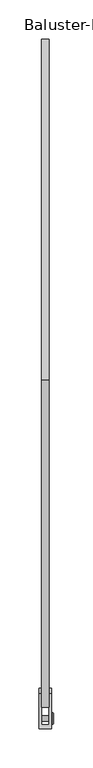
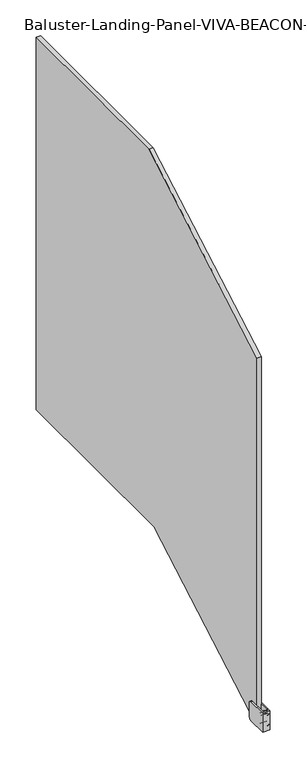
"""IFC4 building model written with IfcOpenShell, lengths in millimetres: railing geometry, Baluster-Landing-Panel-VIVA-BEACON-Lower : Standard_Glass."""

from ifc_helpers import new_model, si_unit, point, frame, origin, place, context, project, spatial, polyline, circle_curve, ellipse_curve, trimmed, outline, extrude, source, transform, mapped, element, save
from ifc_brep_helpers import plane_surface, cylinder_surface, revolved_surface, advanced_brep


def baluster_landing_panel_viva_beacon_lower_standard_glass_3bbf7e14(model_context):
    return source(origin(), model_context, "Body", "SolidModel", [
        advanced_brep(
        [(33.3375, -17.8996011, 0.771525), (33.3375, -10.8087093, 0.771525), (46.0375, -10.8087093, 0.771525), (46.0375, -17.8996011, 0.771525), (46.0375, -6.9463661, 0.771525), (46.0375, -21.7619443, 0.771525), (46.904612, -16.0102306, 0.771525), (46.904612, -12.6980798, 0.771525), (33.3375, -12.6980798, 0.771525), (33.3375, -16.0102306, 0.771525), (46.8723449, -21.7619443, 0.771525), (46.8723449, -6.9463661, 0.771525), (48.1536169, -8.2276382, 0.771525), (48.1536169, -20.4806723, 0.771525), (48.1536169, -10.0555597, 0.771525), (48.1536169, -18.6527508, 0.771525), (46.904612, -10.0555597, 0.771525), (46.904612, -18.6527508, 0.771525)],
        [
            (0, 1, circle_curve(frame((33.3375, -14.3541552, 0.771525), z_axis=(1.0, 0.0, 0.0), x_axis=(0.0, 1.0, 0.0)), 3.5454459)),
            (1, 2),
            (2, 3, circle_curve(frame((46.0375, -14.3541552, 0.771525), z_axis=(-1.0, 0.0, 0.0), x_axis=(0.0, 1.0, 0.0)), 3.5454459)),
            (3, 0),
            (1, 0, circle_curve(frame((33.3375, -14.3541552, 0.771525), z_axis=(1.0, 0.0, 0.0), x_axis=(0.0, 1.0, 0.0)), 3.5454459)),
            (3, 2, circle_curve(frame((46.0375, -14.3541552, 0.771525), z_axis=(-1.0, 0.0, 0.0), x_axis=(0.0, 1.0, 0.0)), 3.5454459)),
            (2, 4),
            (4, 5, circle_curve(frame((46.0375, -14.3541552, 0.771525), z_axis=(-1.0, 0.0, 0.0), x_axis=(0.0, 1.0, 0.0)), 7.4077891)),
            (5, 3),
            (5, 4, circle_curve(frame((46.0375, -14.3541552, 0.771525), z_axis=(-1.0, 0.0, 0.0), x_axis=(0.0, 1.0, 0.0)), 7.4077891)),
            (6, 7, circle_curve(frame((46.904612, -14.3541552, 0.771525), z_axis=(1.0, 0.0, 0.0), x_axis=(0.0, 1.0, 0.0)), 1.6560754)),
            (7, 8),
            (8, 9, circle_curve(frame((33.3375, -14.3541552, 0.771525), z_axis=(-1.0, 0.0, 0.0), x_axis=(0.0, 1.0, 0.0)), 1.6560754)),
            (9, 6),
            (7, 6, circle_curve(frame((46.904612, -14.3541552, 0.771525), z_axis=(1.0, 0.0, 0.0), x_axis=(0.0, 1.0, 0.0)), 1.6560754)),
            (9, 8, circle_curve(frame((33.3375, -14.3541552, 0.771525), z_axis=(-1.0, 0.0, 0.0), x_axis=(0.0, 1.0, 0.0)), 1.6560754)),
            (10, 11, circle_curve(frame((46.8723449, -14.3541552, 0.771525), z_axis=(1.0, 0.0, 0.0), x_axis=(0.0, 1.0, 0.0)), 7.4077891)),
            (11, 12, circle_curve(frame((46.8723449, -8.2276382, 0.771525), z_axis=(0.0, 0.0, -1.0), x_axis=(0.0, 1.0, 0.0)), 1.281272)),
            (12, 13, circle_curve(frame((48.1536169, -14.3541552, 0.771525), z_axis=(-1.0, 0.0, 0.0), x_axis=(0.0, 1.0, 0.0)), 6.1265171)),
            (13, 10, circle_curve(frame((46.8723449, -20.4806723, 0.771525), z_axis=(0.0, 0.0, -1.0), x_axis=(0.0, -1.0, 0.0)), 1.281272)),
            (11, 10, circle_curve(frame((46.8723449, -14.3541552, 0.771525), z_axis=(1.0, 0.0, 0.0), x_axis=(0.0, 1.0, 0.0)), 7.4077891)),
            (13, 12, circle_curve(frame((48.1536169, -14.3541552, 0.771525), z_axis=(-1.0, 0.0, 0.0), x_axis=(0.0, 1.0, 0.0)), 6.1265171)),
            (12, 14),
            (14, 15, circle_curve(frame((48.1536169, -14.3541552, 0.771525), z_axis=(-1.0, 0.0, 0.0), x_axis=(0.0, 1.0, 0.0)), 4.2985955)),
            (15, 13),
            (15, 14, circle_curve(frame((48.1536169, -14.3541552, 0.771525), z_axis=(-1.0, 0.0, 0.0), x_axis=(0.0, 1.0, 0.0)), 4.2985955)),
            (4, 11),
            (10, 5),
            (8, 1),
            (0, 9),
            (14, 16),
            (16, 17, circle_curve(frame((46.904612, -14.3541552, 0.771525), z_axis=(-1.0, 0.0, 0.0), x_axis=(0.0, 1.0, 0.0)), 4.2985955)),
            (17, 15),
            (17, 16, circle_curve(frame((46.904612, -14.3541552, 0.771525), z_axis=(-1.0, 0.0, 0.0), x_axis=(0.0, 1.0, 0.0)), 4.2985955)),
            (16, 7),
            (6, 17),
        ],
        [
            cylinder_surface(frame((42.5407669, -14.3541552, 0.771525), z_axis=(-1.0, 0.0, 0.0), x_axis=(0.0, 1.0, 0.0)), 3.5454459),
            plane_surface(frame((46.0375, -14.3541552, 0.771525), z_axis=(-1.0, 0.0, 0.0), x_axis=(0.0, 1.0, 0.0))),
            revolved_surface(polyline([(33.3375, -12.698079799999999, 0.771525), (46.904612, -12.698079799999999, 0.771525)]), (42.5407669, -14.3541552, 0.771525), (-1.0, 0.0, 0.0)),
            revolved_surface(trimmed(ellipse_curve(frame((46.8723449, -8.2276382, 0.771525), z_axis=(0.0, 0.0, 1.0), x_axis=(0.0, 1.0, 0.0)), 1.281272, 1.281272), [point((48.1536169, -8.2276382, 0.771525))], [point((46.8723449, -6.9463661, 0.771525))], True, "CARTESIAN"), (42.5407669, -14.3541552, 0.771525), (-1.0, 0.0, 0.0)),
            plane_surface(frame((48.1536169, -14.3541552, 0.771525), z_axis=(1.0, 0.0, 0.0), x_axis=(0.0, 1.0, 0.0))),
            cylinder_surface(frame((42.5407669, -14.3541552, 0.771525), z_axis=(-1.0, 0.0, 0.0), x_axis=(0.0, 1.0, 0.0)), 7.4077891),
            plane_surface(frame((33.3375, -14.3541552, 0.771525), z_axis=(-1.0, 0.0, 0.0), x_axis=(0.0, 1.0, 0.0))),
            revolved_surface(polyline([(46.904612, -10.0555597, 0.771525), (48.1536169, -10.0555597, 0.771525)]), (42.5407669, -14.3541552, 0.771525), (-1.0, 0.0, 0.0)),
            plane_surface(frame((46.904612, -14.3541552, 0.771525), z_axis=(1.0, 0.0, 0.0), x_axis=(0.0, 1.0, 0.0))),
        ],
        [
            (0, [[1, 2, 3, 4]]),
            (0, [[5, -4, 6, -2]]),
            (1, [[-3, 7, 8, 9]]),
            (1, [[-6, -9, 10, -7]]),
            (2, [[11, 12, 13, 14]]),
            (2, [[15, -14, 16, -12]]),
            (3, [[17, 18, 19, 20]]),
            (3, [[21, -20, 22, -18]]),
            (4, [[-19, 23, 24, 25]]),
            (4, [[-22, -25, 26, -23]]),
            (5, [[-8, 27, -17, 28]]),
            (5, [[-10, -28, -21, -27]]),
            (6, [[-13, 29, -1, 30]]),
            (6, [[-16, -30, -5, -29]]),
            (7, [[-24, 31, 32, 33]]),
            (7, [[-26, -33, 34, -31]]),
            (8, [[-32, 35, -11, 36]]),
            (8, [[-34, -36, -15, -35]]),
        ],
    ),
        advanced_brep(
        [(33.3375, -17.8996011, -23.834725), (33.3375, -10.8087093, -23.834725), (46.0375, -10.8087093, -23.834725), (46.0375, -17.8996011, -23.834725), (46.0375, -6.9463661, -23.834725), (46.0375, -21.7619443, -23.834725), (46.904612, -16.0102306, -23.834725), (46.904612, -12.6980798, -23.834725), (33.3375, -12.6980798, -23.834725), (33.3375, -16.0102306, -23.834725), (46.8723449, -21.7619443, -23.834725), (46.8723449, -6.9463661, -23.834725), (48.1536169, -8.2276382, -23.834725), (48.1536169, -20.4806723, -23.834725), (48.1536169, -10.0555597, -23.834725), (48.1536169, -18.6527508, -23.834725), (46.904612, -10.0555597, -23.834725), (46.904612, -18.6527508, -23.834725)],
        [
            (0, 1, circle_curve(frame((33.3375, -14.3541552, -23.834725), z_axis=(1.0, 0.0, 0.0), x_axis=(0.0, 1.0, 0.0)), 3.5454459)),
            (1, 2),
            (2, 3, circle_curve(frame((46.0375, -14.3541552, -23.834725), z_axis=(-1.0, 0.0, 0.0), x_axis=(0.0, 1.0, 0.0)), 3.5454459)),
            (3, 0),
            (1, 0, circle_curve(frame((33.3375, -14.3541552, -23.834725), z_axis=(1.0, 0.0, 0.0), x_axis=(0.0, 1.0, 0.0)), 3.5454459)),
            (3, 2, circle_curve(frame((46.0375, -14.3541552, -23.834725), z_axis=(-1.0, 0.0, 0.0), x_axis=(0.0, 1.0, 0.0)), 3.5454459)),
            (2, 4),
            (4, 5, circle_curve(frame((46.0375, -14.3541552, -23.834725), z_axis=(-1.0, 0.0, 0.0), x_axis=(0.0, 1.0, 0.0)), 7.4077891)),
            (5, 3),
            (5, 4, circle_curve(frame((46.0375, -14.3541552, -23.834725), z_axis=(-1.0, 0.0, 0.0), x_axis=(0.0, 1.0, 0.0)), 7.4077891)),
            (6, 7, circle_curve(frame((46.904612, -14.3541552, -23.834725), z_axis=(1.0, 0.0, 0.0), x_axis=(0.0, 1.0, 0.0)), 1.6560754)),
            (7, 8),
            (8, 9, circle_curve(frame((33.3375, -14.3541552, -23.834725), z_axis=(-1.0, 0.0, 0.0), x_axis=(0.0, 1.0, 0.0)), 1.6560754)),
            (9, 6),
            (7, 6, circle_curve(frame((46.904612, -14.3541552, -23.834725), z_axis=(1.0, 0.0, 0.0), x_axis=(0.0, 1.0, 0.0)), 1.6560754)),
            (9, 8, circle_curve(frame((33.3375, -14.3541552, -23.834725), z_axis=(-1.0, 0.0, 0.0), x_axis=(0.0, 1.0, 0.0)), 1.6560754)),
            (10, 11, circle_curve(frame((46.8723449, -14.3541552, -23.834725), z_axis=(1.0, 0.0, 0.0), x_axis=(0.0, 1.0, 0.0)), 7.4077891)),
            (11, 12, circle_curve(frame((46.8723449, -8.2276382, -23.834725), z_axis=(0.0, 0.0, -1.0), x_axis=(0.0, 1.0, 0.0)), 1.281272)),
            (12, 13, circle_curve(frame((48.1536169, -14.3541552, -23.834725), z_axis=(-1.0, 0.0, 0.0), x_axis=(0.0, 1.0, 0.0)), 6.1265171)),
            (13, 10, circle_curve(frame((46.8723449, -20.4806723, -23.834725), z_axis=(0.0, 0.0, -1.0), x_axis=(0.0, -1.0, 0.0)), 1.281272)),
            (11, 10, circle_curve(frame((46.8723449, -14.3541552, -23.834725), z_axis=(1.0, 0.0, 0.0), x_axis=(0.0, 1.0, 0.0)), 7.4077891)),
            (13, 12, circle_curve(frame((48.1536169, -14.3541552, -23.834725), z_axis=(-1.0, 0.0, 0.0), x_axis=(0.0, 1.0, 0.0)), 6.1265171)),
            (12, 14),
            (14, 15, circle_curve(frame((48.1536169, -14.3541552, -23.834725), z_axis=(-1.0, 0.0, 0.0), x_axis=(0.0, 1.0, 0.0)), 4.2985955)),
            (15, 13),
            (15, 14, circle_curve(frame((48.1536169, -14.3541552, -23.834725), z_axis=(-1.0, 0.0, 0.0), x_axis=(0.0, 1.0, 0.0)), 4.2985955)),
            (8, 1),
            (0, 9),
            (4, 11),
            (10, 5),
            (14, 16),
            (16, 17, circle_curve(frame((46.904612, -14.3541552, -23.834725), z_axis=(-1.0, 0.0, 0.0), x_axis=(0.0, 1.0, 0.0)), 4.2985955)),
            (17, 15),
            (17, 16, circle_curve(frame((46.904612, -14.3541552, -23.834725), z_axis=(-1.0, 0.0, 0.0), x_axis=(0.0, 1.0, 0.0)), 4.2985955)),
            (16, 7),
            (6, 17),
        ],
        [
            cylinder_surface(frame((42.5407669, -14.3541552, -23.834725), z_axis=(-1.0, 0.0, 0.0), x_axis=(0.0, 1.0, 0.0)), 3.5454459),
            plane_surface(frame((46.0375, -14.3541552, -23.834725), z_axis=(-1.0, 0.0, 0.0), x_axis=(0.0, 1.0, 0.0))),
            revolved_surface(polyline([(33.3375, -12.698079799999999, -23.834725), (46.904612, -12.698079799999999, -23.834725)]), (42.5407669, -14.3541552, -23.834725), (-1.0, 0.0, 0.0)),
            revolved_surface(trimmed(ellipse_curve(frame((46.8723449, -8.2276382, -23.834725), z_axis=(0.0, 0.0, 1.0), x_axis=(0.0, 1.0, 0.0)), 1.281272, 1.281272), [point((48.1536169, -8.2276382, -23.834725))], [point((46.8723449, -6.9463661, -23.834725))], True, "CARTESIAN"), (42.5407669, -14.3541552, -23.834725), (-1.0, 0.0, 0.0)),
            plane_surface(frame((48.1536169, -14.3541552, -23.834725), z_axis=(1.0, 0.0, 0.0), x_axis=(0.0, 1.0, 0.0))),
            plane_surface(frame((33.3375, -14.3541552, -23.834725), z_axis=(-1.0, 0.0, 0.0), x_axis=(0.0, 1.0, 0.0))),
            cylinder_surface(frame((42.5407669, -14.3541552, -23.834725), z_axis=(-1.0, 0.0, 0.0), x_axis=(0.0, 1.0, 0.0)), 7.4077891),
            revolved_surface(polyline([(46.904612, -10.0555597, -23.834725), (48.1536169, -10.0555597, -23.834725)]), (42.5407669, -14.3541552, -23.834725), (-1.0, 0.0, 0.0)),
            plane_surface(frame((46.904612, -14.3541552, -23.834725), z_axis=(1.0, 0.0, 0.0), x_axis=(0.0, 1.0, 0.0))),
        ],
        [
            (0, [[1, 2, 3, 4]]),
            (0, [[5, -4, 6, -2]]),
            (1, [[-3, 7, 8, 9]]),
            (1, [[-6, -9, 10, -7]]),
            (2, [[11, 12, 13, 14]]),
            (2, [[15, -14, 16, -12]]),
            (3, [[17, 18, 19, 20]]),
            (3, [[21, -20, 22, -18]]),
            (4, [[-19, 23, 24, 25]]),
            (4, [[-22, -25, 26, -23]]),
            (5, [[-13, 27, -1, 28]]),
            (5, [[-16, -28, -5, -27]]),
            (6, [[-8, 29, -17, 30]]),
            (6, [[-10, -30, -21, -29]]),
            (7, [[-24, 31, 32, 33]]),
            (7, [[-26, -33, 34, -31]]),
            (8, [[-32, 35, -11, 36]]),
            (8, [[-34, -36, -15, -35]]),
        ],
    ),
        extrude(outline(polyline([(-18.4480835, -23.834725), (-16.4011194, -20.2892791), (-12.3071911, -20.2892791), (-10.2602269, -23.834725), (-12.3071911, -27.3801709), (-16.4011194, -27.3801709), (-18.4480835, -23.834725)])), frame((46.904612, 0.0, 0.0), z_axis=(1.0, 0.0, 0.0), x_axis=(0.0, 1.0, 0.0)), (0.0, 0.0, 1.0), 1.4969696),
        advanced_brep(
        [(46.0375, -26.9875, 10.6934), (46.0375, -26.9875, -33.7566), (46.0375, 17.4625, -33.7566), (46.0375, 23.8125, -27.4066), (46.0375, 23.8125, 4.3434), (46.0375, 17.4625, 10.6934), (30.1625, -26.9875, 10.6934), (30.1625, 17.4625, 10.6934), (30.1625, 23.8125, 4.3434), (30.1625, 23.8125, -27.4066), (30.1625, 17.4625, -33.7566), (30.1625, -26.9875, -33.7566), (33.3375, 17.4625, -33.7566), (33.3375, -22.2694196, -33.7566), (42.8625, -22.2694196, -33.7566), (42.8625, 17.4625, -33.7566), (33.3375, -22.2694196, 10.6934), (42.8625, -22.2694196, 10.6934), (42.8625, 17.4625, 10.6934), (42.8625, 23.8125, 4.3434), (42.8625, 23.8125, -27.4066), (33.3375, 23.8125, -27.4066), (33.3375, 23.8125, 4.3434), (33.3375, 17.4625, 10.6934)],
        [
            (0, 1),
            (1, 2),
            (2, 3, circle_curve(frame((46.0375, 17.4625, -27.4066), z_axis=(1.0, 0.0, 0.0), x_axis=(0.0, 1.0, 0.0)), 6.35)),
            (3, 4),
            (4, 5, circle_curve(frame((46.0375, 17.4625, 4.3434), z_axis=(1.0, 0.0, 0.0), x_axis=(0.0, 1.0, 0.0)), 6.35)),
            (5, 0),
            (6, 7),
            (7, 8, circle_curve(frame((30.1625, 17.4625, 4.3434), z_axis=(-1.0, 0.0, 0.0), x_axis=(0.0, 1.0, 0.0)), 6.35)),
            (8, 9),
            (9, 10, circle_curve(frame((30.1625, 17.4625, -27.4066), z_axis=(-1.0, 0.0, 0.0), x_axis=(0.0, 1.0, 0.0)), 6.35)),
            (10, 11),
            (11, 6),
            (0, 6),
            (11, 1),
            (10, 12),
            (12, 13),
            (13, 14),
            (14, 15),
            (15, 2),
            (13, 16),
            (16, 17),
            (17, 14),
            (17, 18),
            (18, 19, circle_curve(frame((42.8625, 17.4625, 4.3434), z_axis=(-1.0, 0.0, 0.0), x_axis=(0.0, 1.0, 0.0)), 6.35)),
            (19, 20),
            (20, 15, circle_curve(frame((42.8625, 17.4625, -27.4066), z_axis=(-1.0, 0.0, 0.0), x_axis=(0.0, 1.0, 0.0)), 6.35)),
            (12, 21, circle_curve(frame((33.3375, 17.4625, -27.4066), z_axis=(1.0, 0.0, 0.0), x_axis=(0.0, 1.0, 0.0)), 6.35)),
            (21, 22),
            (22, 23, circle_curve(frame((33.3375, 17.4625, 4.3434), z_axis=(1.0, 0.0, 0.0), x_axis=(0.0, 1.0, 0.0)), 6.35)),
            (23, 16),
            (20, 3),
            (9, 21),
            (19, 4),
            (8, 22),
            (18, 5),
            (7, 23),
        ],
        [
            plane_surface(frame((46.0375, -26.9875, -33.7566), z_axis=(1.0, 0.0, 0.0), x_axis=(0.0, 0.0, -1.0))),
            plane_surface(frame((30.1625, -26.9875, -33.7566), z_axis=(-1.0, 0.0, 0.0), x_axis=(0.0, 0.0, 1.0))),
            plane_surface(frame((46.0375, -26.9875, 10.6934), z_axis=(0.0, -1.0, 0.0), x_axis=(-1.0, 0.0, 0.0))),
            plane_surface(frame((46.0375, -26.9875, -33.7566), z_axis=(0.0, 0.0, -1.0), x_axis=(-1.0, 0.0, 0.0))),
            plane_surface(frame((33.3375, -22.2694196, 23.3934), z_axis=(0.0, 1.0, 0.0), x_axis=(0.0, 0.0, -1.0))),
            plane_surface(frame((42.8625, -22.2694196, 23.3934), z_axis=(-1.0, 0.0, 0.0), x_axis=(0.0, 0.0, -1.0))),
            plane_surface(frame((33.3375, 36.5125, 23.3934), z_axis=(1.0, 0.0, 0.0), x_axis=(0.0, 0.0, -1.0))),
            cylinder_surface(frame((30.1625, 17.4625, -27.4066), z_axis=(1.0, 0.0, 0.0), x_axis=(0.0, 1.0, 0.0)), 6.35),
            plane_surface(frame((46.0375, 23.8125, -27.4066), z_axis=(0.0, 1.0, 0.0), x_axis=(-1.0, 0.0, 0.0))),
            cylinder_surface(frame((30.1625, 17.4625, 4.3434), z_axis=(1.0, 0.0, 0.0), x_axis=(0.0, 1.0, 0.0)), 6.35),
            plane_surface(frame((46.0375, 17.4625, 10.6934), z_axis=(0.0, 0.0, 1.0), x_axis=(-1.0, 0.0, 0.0))),
        ],
        [
            (0, [[1, 2, 3, 4, 5, 6]]),
            (1, [[7, 8, 9, 10, 11, 12]]),
            (2, [[-1, 13, -12, 14]]),
            (3, [[-2, -14, -11, 15, 16, 17, 18, 19]]),
            (4, [[20, 21, 22, -17]]),
            (5, [[-22, 23, 24, 25, 26, -18]]),
            (6, [[-20, -16, 27, 28, 29, 30]]),
            (7, [[-3, -19, -26, 31]]),
            (7, [[-10, 32, -27, -15]]),
            (8, [[-4, -31, -25, 33]]),
            (8, [[-9, 34, -28, -32]]),
            (9, [[-5, -33, -24, 35]]),
            (9, [[-8, 36, -29, -34]]),
            (10, [[-6, -35, -23, -21, -30, -36, -7, -13]]),
        ],
    ),
        extrude(outline(polyline([(414.401, 1059.4086), (846.2424506, 1059.4086), (846.2424506, 189.103), (394.0827353, 189.103), (0.0, -36.0426), (0.0, 822.6548592), (414.401, 1059.4086)])), frame((33.3375, 0.0, 0.0), z_axis=(1.0, 0.0, 0.0), x_axis=(0.0, 1.0, 0.0)), (0.0, 0.0, 1.0), 9.525),
    ])


if __name__ == "__main__":
    model = new_model("IFC4")
    model_context = context("Model", 3, world=origin())
    ifc_project = project(units=[si_unit("LENGTHUNIT", "METRE", prefix="MILLI")], contexts=[model_context])
    site = spatial("IfcSite", under=ifc_project)
    building = spatial("IfcBuilding", under=site)
    placement = place(None, origin())
    baluster_landing_panel_viva_beacon_lower_standard_glass_shape = baluster_landing_panel_viva_beacon_lower_standard_glass_3bbf7e14(model_context)
    element("IfcRailing", 1, ObjectType="Baluster-Landing-Panel-VIVA-BEACON-Lower : Standard_Glass", at=placement, inside=building, context=model_context, shape_type="MappedRepresentation", body=[
        mapped(baluster_landing_panel_viva_beacon_lower_standard_glass_shape, transform((0.0, 0.0, 0.0), x_axis=(1.0, 0.0, 0.0), y_axis=(0.0, 1.0, 0.0), z_axis=(0.0, 0.0, 1.0))),
    ])
    save(model, "model.ifc")
